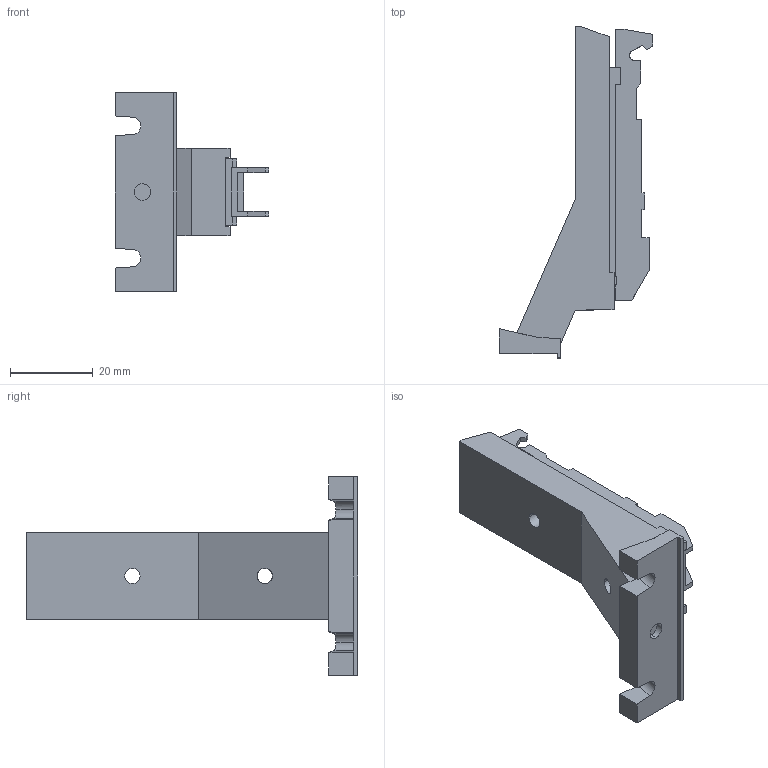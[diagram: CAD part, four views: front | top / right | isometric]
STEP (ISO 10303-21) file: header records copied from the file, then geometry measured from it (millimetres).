
FILE_DESCRIPTION (( 'STEP AP214' ), '1' );
FILE_NAME ('Inset Beaded Montageplatte für Rahmenkonstruktion.STEP', '2010-11-18T10:00:28', ( 'grass' ), ( '' ), 'SwSTEP 2.0', 'SolidWorks 2010', '' );
FILE_SCHEMA (( 'AUTOMOTIVE_DESIGN' ));
Length unit declared in the file: millimetre
Products named in the file (1): Inset Beaded Montageplatte für Rahmenkonstruktion
Bounding box: 37 x 80.2 x 48 mm (x, y, z)
Volume: 22487.6 mm3; surface area: 9471.3 mm2
Topology: 1 solids, 1 shells, 115 faces, 327 edges, 218 vertices
Faces by surface type: plane 97, cylinder 18
Entity records: 3731 total; most frequent: CARTESIAN_POINT 685, ORIENTED_EDGE 654, DIRECTION 579, EDGE_CURVE 327, LINE 291, VECTOR 291, VERTEX_POINT 218, AXIS2_PLACEMENT_3D 144
